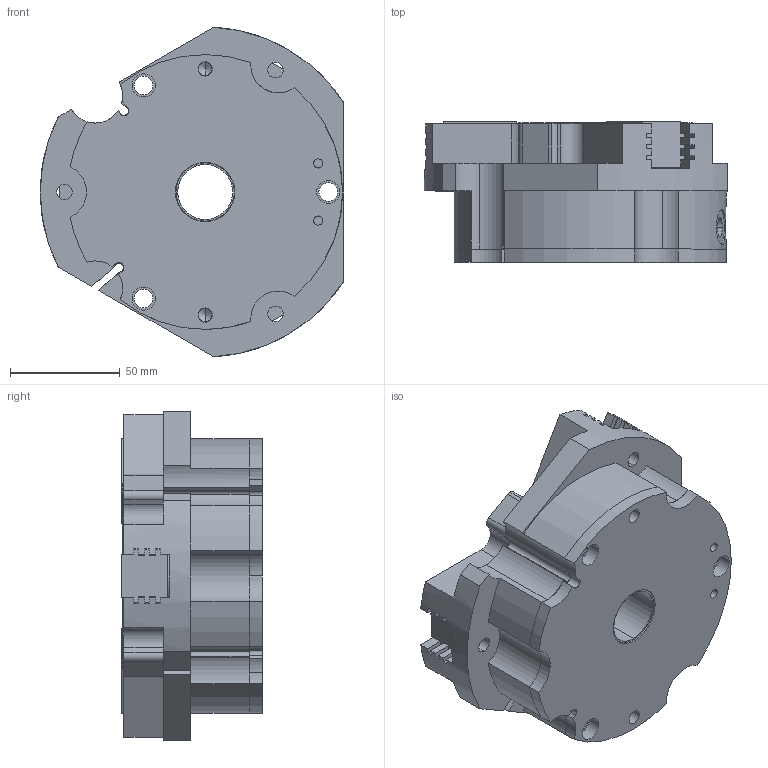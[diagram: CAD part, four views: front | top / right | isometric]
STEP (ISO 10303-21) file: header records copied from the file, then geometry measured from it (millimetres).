
FILE_DESCRIPTION (( 'STEP AP214' ), '1' );
FILE_NAME ('THB-125A-1.STEP', '2020-09-10T10:09:48', ( '' ), ( '' ), 'SwSTEP 2.0', 'SolidWorks 2016', '' );
FILE_SCHEMA (( 'AUTOMOTIVE_DESIGN' ));
Length unit declared in the file: millimetre
Products named in the file (6): THB-125A-1; THB-125A-1-03; THB-125A-1-01; THB-125A-1-05; THB-125A-1-04; THB-125A-1-02
Assembly tree (7 placements, depth 2):
  THB-125A-1
    THB-125A-1-01
    THB-125A-1-02  x3
    THB-125A-1-03
    THB-125A-1-04
    THB-125A-1-05
Bounding box: 138 x 64 x 149.81 mm (x, y, z)
Volume: 648905.5 mm3; surface area: 143397.7 mm2
Topology: 7 solids, 8 shells, 507 faces, 1383 edges, 890 vertices
Faces by surface type: plane 256, cylinder 189, cone 62
Entity records: 13689 total; most frequent: CARTESIAN_POINT 2390, DIRECTION 2381, ORIENTED_EDGE 2182, EDGE_CURVE 1091, AXIS2_PLACEMENT_3D 881, VERTEX_POINT 718, VECTOR 619, LINE 619
